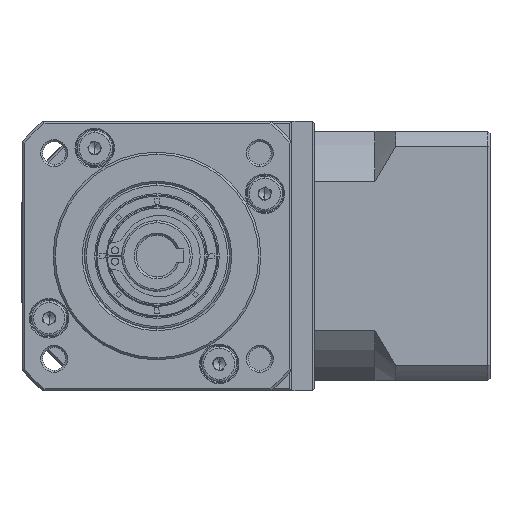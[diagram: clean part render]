
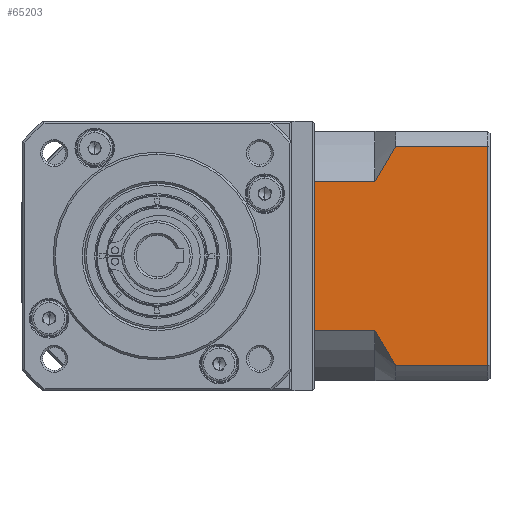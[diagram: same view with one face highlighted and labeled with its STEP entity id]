
A CAD part, left-side view. The second image highlights one B-rep face of the part: STEP entity #65203.
In plain terms, the highlighted planar face has unit normal (-1, 0, 0).
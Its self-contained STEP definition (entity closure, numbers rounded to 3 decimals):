
#866 = DIRECTION ( 'NONE',  ( 0., -1., 0. ) ) ;
#5188 = CARTESIAN_POINT ( 'NONE',  ( -19.598, -75.787, -137.429 ) ) ;
#6244 = CARTESIAN_POINT ( 'NONE',  ( -19.598, -79.886, -144.496 ) ) ;
#6306 = DIRECTION ( 'NONE',  ( 1., 0., 0. ) ) ;
#10884 = ORIENTED_EDGE ( 'NONE', *, *, #45207, .F. ) ;
#12381 = DIRECTION ( 'NONE',  ( 0., 1., 0. ) ) ;
#12872 = VECTOR ( 'NONE', #13484, 1000. ) ;
#13484 = DIRECTION ( 'NONE',  ( 0., 0., -1. ) ) ;
#16707 = LINE ( 'NONE', #61431, #12872 ) ;
#28854 = DIRECTION ( 'NONE',  ( 0., 1., 0. ) ) ;
#30175 = CARTESIAN_POINT ( 'NONE',  ( -19.598, -76.538, -138.886 ) ) ;
#36323 = CARTESIAN_POINT ( 'NONE',  ( -19.598, -75.787, -145.859 ) ) ;
#37135 = LINE ( 'NONE', #49385, #98276 ) ;
#37908 = VERTEX_POINT ( 'NONE', #109712 ) ;
#38329 = VECTOR ( 'NONE', #136231, 1000. ) ;
#38961 = VERTEX_POINT ( 'NONE', #125344 ) ;
#39229 = CARTESIAN_POINT ( 'NONE',  ( -19.598, -80.787, -92.944 ) ) ;
#41910 = EDGE_CURVE ( 'NONE', #142576, #37908, #90570, .T. ) ;
#45207 = EDGE_CURVE ( 'NONE', #126598, #150321, #102163, .T. ) ;
#48059 = DIRECTION ( 'NONE',  ( 0., -1., 0. ) ) ;
#49385 = CARTESIAN_POINT ( 'NONE',  ( -19.598, -75.787, -92.944 ) ) ;
#54311 = ORIENTED_EDGE ( 'NONE', *, *, #41910, .F. ) ;
#58150 = VECTOR ( 'NONE', #48059, 1000. ) ;
#58326 = CARTESIAN_POINT ( 'NONE',  ( -19.598, -80.787, -145.859 ) ) ;
#61431 = CARTESIAN_POINT ( 'NONE',  ( -19.598, -61.287, -149.401 ) ) ;
#62951 = EDGE_CURVE ( 'NONE', #142576, #150321, #16707, .T. ) ;
#63095 = CARTESIAN_POINT ( 'NONE',  ( -19.598, -102.987, -92.944 ) ) ;
#63800 = CARTESIAN_POINT ( 'NONE',  ( -19.598, -77.339, -98.49 ) ) ;
#64826 = ORIENTED_EDGE ( 'NONE', *, *, #121476, .T. ) ;
#65203 = ADVANCED_FACE ( 'NONE', ( #144809 ), #103387, .F. ) ;
#65439 = ORIENTED_EDGE ( 'NONE', *, *, #123578, .F. ) ;
#66023 = CARTESIAN_POINT ( 'NONE',  ( -19.598, -61.287, -101.374 ) ) ;
#70865 = LINE ( 'NONE', #111734, #38329 ) ;
#76087 = CARTESIAN_POINT ( 'NONE',  ( -19.598, -75.787, -101.374 ) ) ;
#79240 = CARTESIAN_POINT ( 'NONE',  ( -19.598, -79.012, -143.116 ) ) ;
#79313 = CARTESIAN_POINT ( 'NONE',  ( -19.598, -103.487, -149.401 ) ) ;
#85707 = LINE ( 'NONE', #36323, #118262 ) ;
#85763 = CARTESIAN_POINT ( 'NONE',  ( -19.598, -79.888, -94.304 ) ) ;
#90205 = CARTESIAN_POINT ( 'NONE',  ( -19.598, -75.787, -137.429 ) ) ;
#90570 = LINE ( 'NONE', #121271, #58150 ) ;
#91516 = CARTESIAN_POINT ( 'NONE',  ( -19.598, -80.787, -145.859 ) ) ;
#91580 = DIRECTION ( 'NONE',  ( 0., 1., 0. ) ) ;
#92646 = CARTESIAN_POINT ( 'NONE',  ( -19.598, -61.287, -137.429 ) ) ;
#94481 = VECTOR ( 'NONE', #28854, 1000. ) ;
#98276 = VECTOR ( 'NONE', #866, 1000. ) ;
#100777 = AXIS2_PLACEMENT_3D ( 'NONE', #79313, #6306, #91580 ) ;
#102163 = LINE ( 'NONE', #90205, #94481 ) ;
#102813 = ORIENTED_EDGE ( 'NONE', *, *, #139079, .F. ) ;
#103387 = PLANE ( 'NONE',  #100777 ) ;
#106187 = B_SPLINE_CURVE_WITH_KNOTS ( 'NONE', 3,
 ( #39229, #85763, #136905, #63800, #149185, #76087 ),
 .UNSPECIFIED., .F., .F.,
 ( 4, 2, 4 ),
 ( 0.052, 0.057, 0.062 ),
 .UNSPECIFIED. ) ;
#108677 = ORIENTED_EDGE ( 'NONE', *, *, #146771, .T. ) ;
#109712 = CARTESIAN_POINT ( 'NONE',  ( -19.598, -75.787, -101.374 ) ) ;
#111734 = CARTESIAN_POINT ( 'NONE',  ( -19.598, -102.987, -149.401 ) ) ;
#113972 = CARTESIAN_POINT ( 'NONE',  ( -19.598, -80.787, -92.944 ) ) ;
#115401 = ORIENTED_EDGE ( 'NONE', *, *, #130339, .T. ) ;
#118262 = VECTOR ( 'NONE', #12381, 1000. ) ;
#121271 = CARTESIAN_POINT ( 'NONE',  ( -19.598, -75.787, -101.374 ) ) ;
#121476 = EDGE_CURVE ( 'NONE', #38961, #128238, #70865, .T. ) ;
#123578 = EDGE_CURVE ( 'NONE', #136308, #128238, #37135, .T. ) ;
#124048 = EDGE_LOOP ( 'NONE', ( #102813, #64826, #65439, #115401, #54311, #146165, #10884, #108677 ) ) ;
#125344 = CARTESIAN_POINT ( 'NONE',  ( -19.598, -102.987, -145.859 ) ) ;
#126598 = VERTEX_POINT ( 'NONE', #139432 ) ;
#128238 = VERTEX_POINT ( 'NONE', #63095 ) ;
#130339 = EDGE_CURVE ( 'NONE', #136308, #37908, #106187, .T. ) ;
#131125 = B_SPLINE_CURVE_WITH_KNOTS ( 'NONE', 3,
 ( #5188, #30175, #152395, #79240, #6244, #91516 ),
 .UNSPECIFIED., .F., .F.,
 ( 4, 2, 4 ),
 ( 0.1, 0.104, 0.109 ),
 .UNSPECIFIED. ) ;
#136231 = DIRECTION ( 'NONE',  ( 0., 0., 1. ) ) ;
#136308 = VERTEX_POINT ( 'NONE', #113972 ) ;
#136905 = CARTESIAN_POINT ( 'NONE',  ( -19.598, -79.015, -95.682 ) ) ;
#139079 = EDGE_CURVE ( 'NONE', #38961, #149476, #85707, .T. ) ;
#139432 = CARTESIAN_POINT ( 'NONE',  ( -19.598, -75.787, -137.429 ) ) ;
#142576 = VERTEX_POINT ( 'NONE', #66023 ) ;
#144809 = FACE_OUTER_BOUND ( 'NONE', #124048, .T. ) ;
#146165 = ORIENTED_EDGE ( 'NONE', *, *, #62951, .T. ) ;
#146771 = EDGE_CURVE ( 'NONE', #126598, #149476, #131125, .T. ) ;
#149185 = CARTESIAN_POINT ( 'NONE',  ( -19.598, -76.535, -99.922 ) ) ;
#149476 = VERTEX_POINT ( 'NONE', #58326 ) ;
#150321 = VERTEX_POINT ( 'NONE', #92646 ) ;
#152395 = CARTESIAN_POINT ( 'NONE',  ( -19.598, -77.338, -140.311 ) ) ;
